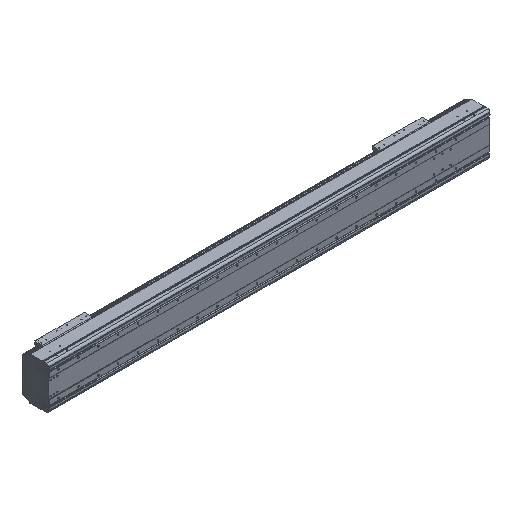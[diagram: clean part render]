
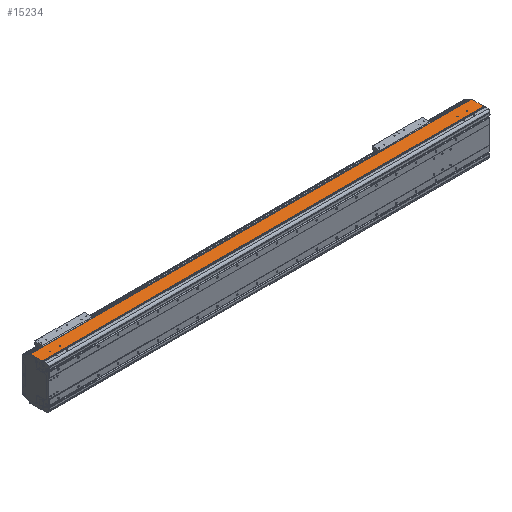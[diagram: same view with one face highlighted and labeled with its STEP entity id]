
A CAD part, isometric view. The second image highlights one B-rep face of the part: STEP entity #15234.
In plain terms, the highlighted planar face has unit normal (0, 0, 1).
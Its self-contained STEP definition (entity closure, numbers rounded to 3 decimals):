
#1832=DIRECTION('',(0.,-1.,0.));
#1833=VECTOR('',#1832,2.55);
#1834=CARTESIAN_POINT('',(0.,34.65,107.));
#1835=LINE('',#1834,#1833);
#2315=DIRECTION('',(1.,0.,0.));
#2316=VECTOR('',#2315,2.);
#2317=CARTESIAN_POINT('',(-2221.,34.65,107.));
#2318=LINE('',#2317,#2316);
#2319=CARTESIAN_POINT('',(-59.5,54.,107.));
#2320=DIRECTION('',(0.,0.,-1.));
#2321=DIRECTION('',(1.,0.,0.));
#2322=AXIS2_PLACEMENT_3D('',#2319,#2320,#2321);
#2324=CARTESIAN_POINT('',(-59.5,54.,107.));
#2325=DIRECTION('',(0.,0.,-1.));
#2326=DIRECTION('',(-1.,0.,0.));
#2327=AXIS2_PLACEMENT_3D('',#2324,#2325,#2326);
#2329=CARTESIAN_POINT('',(-109.5,54.,107.));
#2330=DIRECTION('',(0.,0.,-1.));
#2331=DIRECTION('',(1.,0.,0.));
#2332=AXIS2_PLACEMENT_3D('',#2329,#2330,#2331);
#2334=CARTESIAN_POINT('',(-109.5,54.,107.));
#2335=DIRECTION('',(0.,0.,-1.));
#2336=DIRECTION('',(-1.,0.,0.));
#2337=AXIS2_PLACEMENT_3D('',#2334,#2335,#2336);
#2339=CARTESIAN_POINT('',(-2159.5,54.,107.));
#2340=DIRECTION('',(0.,0.,-1.));
#2341=DIRECTION('',(1.,0.,0.));
#2342=AXIS2_PLACEMENT_3D('',#2339,#2340,#2341);
#2344=CARTESIAN_POINT('',(-2159.5,54.,107.));
#2345=DIRECTION('',(0.,0.,-1.));
#2346=DIRECTION('',(-1.,0.,0.));
#2347=AXIS2_PLACEMENT_3D('',#2344,#2345,#2346);
#2349=CARTESIAN_POINT('',(-2109.5,54.,107.));
#2350=DIRECTION('',(0.,0.,-1.));
#2351=DIRECTION('',(1.,0.,0.));
#2352=AXIS2_PLACEMENT_3D('',#2349,#2350,#2351);
#2354=CARTESIAN_POINT('',(-2109.5,54.,107.));
#2355=DIRECTION('',(0.,0.,-1.));
#2356=DIRECTION('',(-1.,0.,0.));
#2357=AXIS2_PLACEMENT_3D('',#2354,#2355,#2356);
#2359=DIRECTION('',(0.,-1.,0.));
#2360=VECTOR('',#2359,2.55);
#2361=CARTESIAN_POINT('',(-2219.,34.65,107.));
#2362=LINE('',#2361,#2360);
#2363=DIRECTION('',(0.,-1.,0.));
#2364=VECTOR('',#2363,58.85);
#2365=CARTESIAN_POINT('',(-2221.,93.5,107.));
#2366=LINE('',#2365,#2364);
#2367=DIRECTION('',(0.,1.,0.));
#2368=VECTOR('',#2367,58.85);
#2369=CARTESIAN_POINT('',(2.,34.65,107.));
#2370=LINE('',#2369,#2368);
#2371=DIRECTION('',(1.,0.,0.));
#2372=VECTOR('',#2371,2219.);
#2373=CARTESIAN_POINT('',(-2219.,32.1,107.));
#2374=LINE('',#2373,#2372);
#2479=DIRECTION('',(-1.,0.,0.));
#2480=VECTOR('',#2479,2223.);
#2481=CARTESIAN_POINT('',(2.,93.5,107.));
#2482=LINE('',#2481,#2480);
#8389=DIRECTION('',(1.,0.,0.));
#8390=VECTOR('',#8389,2.);
#8391=CARTESIAN_POINT('',(0.,34.65,107.));
#8392=LINE('',#8391,#8390);
#9721=CARTESIAN_POINT('',(-2221.,34.65,107.));
#9722=VERTEX_POINT('',#9721);
#9723=CARTESIAN_POINT('',(-2221.,93.5,107.));
#9724=VERTEX_POINT('',#9723);
#9953=CARTESIAN_POINT('',(-2219.,32.1,107.));
#9954=VERTEX_POINT('',#9953);
#10317=CARTESIAN_POINT('',(0.,32.1,107.));
#10318=VERTEX_POINT('',#10317);
#10319=CARTESIAN_POINT('',(-57.,54.,107.));
#10320=CARTESIAN_POINT('',(-62.,54.,107.));
#10321=VERTEX_POINT('',#10319);
#10322=VERTEX_POINT('',#10320);
#10323=CARTESIAN_POINT('',(-107.,54.,107.));
#10324=CARTESIAN_POINT('',(-112.,54.,107.));
#10325=VERTEX_POINT('',#10323);
#10326=VERTEX_POINT('',#10324);
#10327=CARTESIAN_POINT('',(-2157.,54.,107.));
#10328=CARTESIAN_POINT('',(-2162.,54.,107.));
#10329=VERTEX_POINT('',#10327);
#10330=VERTEX_POINT('',#10328);
#10331=CARTESIAN_POINT('',(-2107.,54.,107.));
#10332=CARTESIAN_POINT('',(-2112.,54.,107.));
#10333=VERTEX_POINT('',#10331);
#10334=VERTEX_POINT('',#10332);
#11058=CARTESIAN_POINT('',(2.,34.65,107.));
#11059=VERTEX_POINT('',#11058);
#11060=CARTESIAN_POINT('',(2.,93.5,107.));
#11061=VERTEX_POINT('',#11060);
#11512=CARTESIAN_POINT('',(0.,34.65,107.));
#11513=VERTEX_POINT('',#11512);
#11592=CARTESIAN_POINT('',(-2219.,34.65,107.));
#11593=VERTEX_POINT('',#11592);
#15192=CARTESIAN_POINT('',(-1109.5,62.8,107.));
#15193=DIRECTION('',(0.,0.,1.));
#15194=DIRECTION('',(0.,-1.,0.));
#15195=AXIS2_PLACEMENT_3D('',#15192,#15193,#15194);
#15196=PLANE('',#15195);
#15197=ORIENTED_EDGE('',*,*,#12678,.F.);
#15198=ORIENTED_EDGE('',*,*,#15187,.F.);
#15199=ORIENTED_EDGE('',*,*,#13307,.F.);
#15201=ORIENTED_EDGE('',*,*,#15200,.F.);
#15202=ORIENTED_EDGE('',*,*,#12415,.F.);
#15204=ORIENTED_EDGE('',*,*,#15203,.F.);
#15205=ORIENTED_EDGE('',*,*,#14795,.T.);
#15207=ORIENTED_EDGE('',*,*,#15206,.F.);
#15208=EDGE_LOOP('',(#15197,#15198,#15199,#15201,#15202,#15204,#15205,#15207));
#15209=FACE_OUTER_BOUND('',#15208,.F.);
#15211=ORIENTED_EDGE('',*,*,#15210,.F.);
#15213=ORIENTED_EDGE('',*,*,#15212,.F.);
#15214=EDGE_LOOP('',(#15211,#15213));
#15215=FACE_BOUND('',#15214,.F.);
#15217=ORIENTED_EDGE('',*,*,#15216,.F.);
#15219=ORIENTED_EDGE('',*,*,#15218,.F.);
#15220=EDGE_LOOP('',(#15217,#15219));
#15221=FACE_BOUND('',#15220,.F.);
#15223=ORIENTED_EDGE('',*,*,#15222,.F.);
#15225=ORIENTED_EDGE('',*,*,#15224,.F.);
#15226=EDGE_LOOP('',(#15223,#15225));
#15227=FACE_BOUND('',#15226,.F.);
#15229=ORIENTED_EDGE('',*,*,#15228,.F.);
#15231=ORIENTED_EDGE('',*,*,#15230,.F.);
#15232=EDGE_LOOP('',(#15229,#15231));
#15233=FACE_BOUND('',#15232,.F.);
#15234=ADVANCED_FACE('',(#15209,#15215,#15221,#15227,#15233),#15196,.T.);
#2323=CIRCLE('',#2322,2.5);
#2328=CIRCLE('',#2327,2.5);
#2333=CIRCLE('',#2332,2.5);
#2338=CIRCLE('',#2337,2.5);
#2343=CIRCLE('',#2342,2.5);
#2348=CIRCLE('',#2347,2.5);
#2353=CIRCLE('',#2352,2.5);
#2358=CIRCLE('',#2357,2.5);
#12415=EDGE_CURVE('',#11059,#11061,#2370,.T.);
#12678=EDGE_CURVE('',#11593,#9954,#2362,.T.);
#13307=EDGE_CURVE('',#9724,#9722,#2366,.T.);
#14795=EDGE_CURVE('',#11513,#10318,#1835,.T.);
#15187=EDGE_CURVE('',#9722,#11593,#2318,.T.);
#15200=EDGE_CURVE('',#11061,#9724,#2482,.T.);
#15203=EDGE_CURVE('',#11513,#11059,#8392,.T.);
#15206=EDGE_CURVE('',#9954,#10318,#2374,.T.);
#15210=EDGE_CURVE('',#10325,#10326,#2333,.T.);
#15212=EDGE_CURVE('',#10326,#10325,#2338,.T.);
#15216=EDGE_CURVE('',#10329,#10330,#2343,.T.);
#15218=EDGE_CURVE('',#10330,#10329,#2348,.T.);
#15222=EDGE_CURVE('',#10333,#10334,#2353,.T.);
#15224=EDGE_CURVE('',#10334,#10333,#2358,.T.);
#15228=EDGE_CURVE('',#10321,#10322,#2323,.T.);
#15230=EDGE_CURVE('',#10322,#10321,#2328,.T.);
